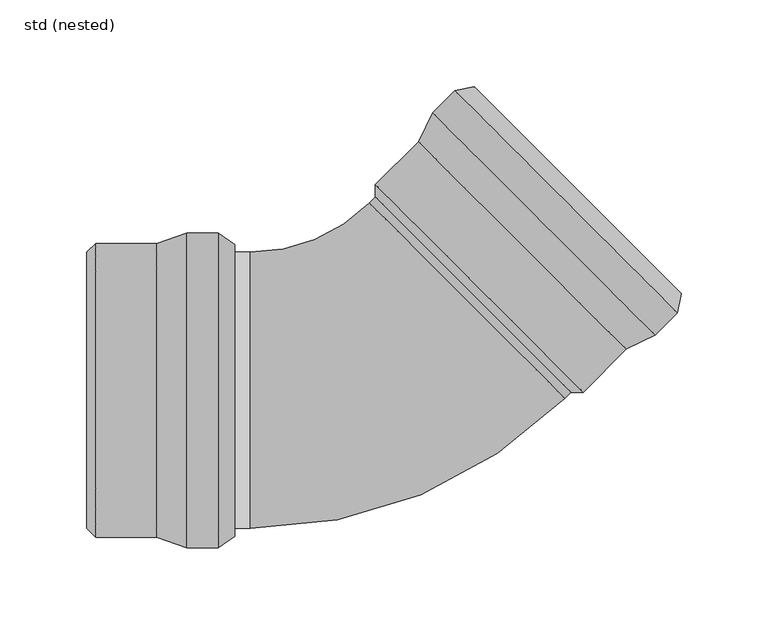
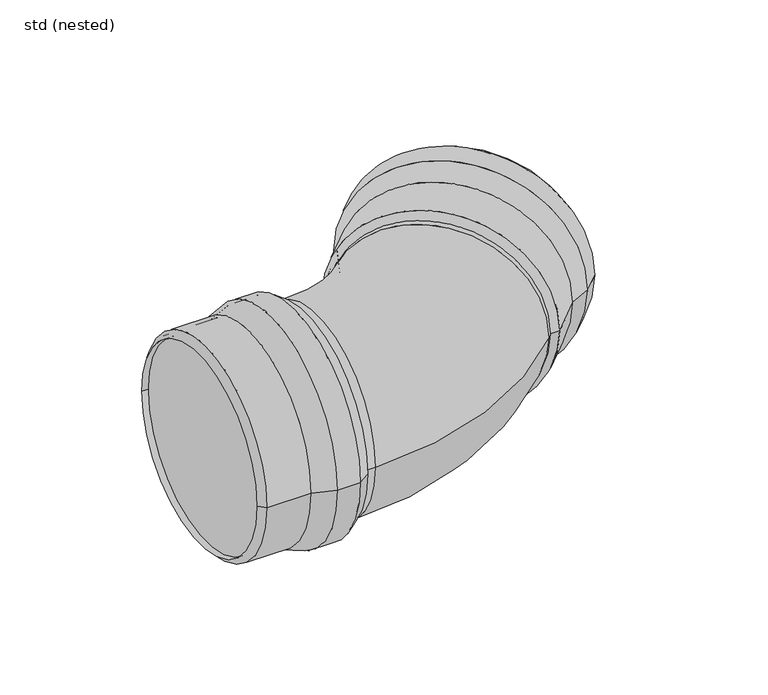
"""IFC4 building model written with IfcOpenShell, lengths in millimetres: pipe fitting geometry, ZZZ_do not use_PIF_ST_UN_GM-X pipe bend_ACO : std (nested)."""

from ifc_helpers import new_model, si_unit, point, frame, origin, place, context, project, spatial, polyline, circle_curve, ellipse_curve, trimmed, source, transform, mapped, element, save
from ifc_brep_helpers import plane_surface, cylinder_surface, revolved_surface, advanced_brep


def std_nested_abb7c94b(model_context):
    return source(origin(), model_context, "Body", "AdvancedBrep", [
        advanced_brep(
        [(-109.5, -90.5, 0.0), (-109.5, 90.5, 0.0), (-91.5, 90.5, 0.0), (-91.5, -90.5, 0.0), (-127.0, -84.5, 0.0), (-127.0, 84.5, 0.0), (-82.0, 84.0, 0.0), (-82.0, -84.0, 0.0), (-162.0, -84.5, 0.0), (-162.0, 84.5, 0.0), (-167.0, -79.5, 0.0), (-167.0, 79.5, 0.0), (-162.0, -79.5, 0.0), (-162.0, 79.5, 0.0), (-126.5833333, -82.0, 0.0), (-126.5833333, 82.0, 0.0), (-162.0, 82.0, 0.0), (-162.0, -82.0, 0.0), (-109.0833333, -88.0, 0.0), (-109.0833333, 88.0, 0.0), (-92.2734094, -88.0, 0.0), (-92.2734094, 88.0, 0.0), (-83.4117098, -81.9367318, 0.0), (-83.4117098, 81.9367318, 0.0)],
        [
            (0, 1, circle_curve(frame((-109.5, 0.0, 0.0), z_axis=(1.0, 0.0, 0.0), x_axis=(0.0, 1.0, 0.0)), 90.5)),
            (1, 2),
            (2, 3, circle_curve(frame((-91.5, 0.0, 0.0), z_axis=(-1.0, 0.0, 0.0), x_axis=(0.0, 1.0, 0.0)), 90.5)),
            (3, 0),
            (1, 0, circle_curve(frame((-109.5, 0.0, 0.0), z_axis=(1.0, 0.0, 0.0), x_axis=(0.0, 1.0, 0.0)), 90.5)),
            (3, 2, circle_curve(frame((-91.5, 0.0, 0.0), z_axis=(-1.0, 0.0, 0.0), x_axis=(0.0, 1.0, 0.0)), 90.5)),
            (4, 5, circle_curve(frame((-127.0, 0.0, 0.0), z_axis=(1.0, 0.0, 0.0), x_axis=(0.0, 1.0, 0.0)), 84.5)),
            (5, 1),
            (0, 4),
            (5, 4, circle_curve(frame((-127.0, 0.0, 0.0), z_axis=(1.0, 0.0, 0.0), x_axis=(0.0, 1.0, 0.0)), 84.5)),
            (2, 6),
            (6, 7, circle_curve(frame((-82.0, 0.0, 0.0), z_axis=(-1.0, 0.0, 0.0), x_axis=(0.0, 1.0, 0.0)), 84.0)),
            (7, 3),
            (7, 6, circle_curve(frame((-82.0, 0.0, 0.0), z_axis=(-1.0, 0.0, 0.0), x_axis=(0.0, 1.0, 0.0)), 84.0)),
            (8, 9, circle_curve(frame((-162.0, 0.0, 0.0), z_axis=(1.0, 0.0, 0.0), x_axis=(0.0, 1.0, 0.0)), 84.5)),
            (9, 5),
            (4, 8),
            (9, 8, circle_curve(frame((-162.0, 0.0, 0.0), z_axis=(1.0, 0.0, 0.0), x_axis=(0.0, 1.0, 0.0)), 84.5)),
            (10, 11, circle_curve(frame((-167.0, 0.0, 0.0), z_axis=(1.0, 0.0, 0.0), x_axis=(0.0, 1.0, 0.0)), 79.5)),
            (11, 9),
            (8, 10),
            (11, 10, circle_curve(frame((-167.0, 0.0, 0.0), z_axis=(1.0, 0.0, 0.0), x_axis=(0.0, 1.0, 0.0)), 79.5)),
            (12, 13, circle_curve(frame((-162.0, 0.0, 0.0), z_axis=(1.0, 0.0, 0.0), x_axis=(0.0, 1.0, 0.0)), 79.5)),
            (13, 11),
            (10, 12),
            (13, 12, circle_curve(frame((-162.0, 0.0, 0.0), z_axis=(1.0, 0.0, 0.0), x_axis=(0.0, 1.0, 0.0)), 79.5)),
            (14, 15, circle_curve(frame((-126.5833333, 0.0, 0.0), z_axis=(1.0, 0.0, 0.0), x_axis=(0.0, 1.0, 0.0)), 82.0)),
            (15, 16),
            (16, 17, circle_curve(frame((-162.0, 0.0, 0.0), z_axis=(-1.0, 0.0, 0.0), x_axis=(0.0, 1.0, 0.0)), 82.0)),
            (17, 14),
            (15, 14, circle_curve(frame((-126.5833333, 0.0, 0.0), z_axis=(1.0, 0.0, 0.0), x_axis=(0.0, 1.0, 0.0)), 82.0)),
            (17, 16, circle_curve(frame((-162.0, 0.0, 0.0), z_axis=(-1.0, 0.0, 0.0), x_axis=(0.0, 1.0, 0.0)), 82.0)),
            (18, 19, circle_curve(frame((-109.0833333, 0.0, 0.0), z_axis=(1.0, 0.0, 0.0), x_axis=(0.0, 1.0, 0.0)), 88.0)),
            (19, 15),
            (14, 18),
            (19, 18, circle_curve(frame((-109.0833333, 0.0, 0.0), z_axis=(1.0, 0.0, 0.0), x_axis=(0.0, 1.0, 0.0)), 88.0)),
            (20, 21, circle_curve(frame((-92.2734094, 0.0, 0.0), z_axis=(1.0, 0.0, 0.0), x_axis=(0.0, 1.0, 0.0)), 88.0)),
            (21, 19),
            (18, 20),
            (21, 20, circle_curve(frame((-92.2734094, 0.0, 0.0), z_axis=(1.0, 0.0, 0.0), x_axis=(0.0, 1.0, 0.0)), 88.0)),
            (22, 23, circle_curve(frame((-83.4117098, 0.0, 0.0), z_axis=(1.0, 0.0, 0.0), x_axis=(0.0, 1.0, 0.0)), 81.9367318)),
            (23, 21),
            (20, 22),
            (23, 22, circle_curve(frame((-83.4117098, 0.0, 0.0), z_axis=(1.0, 0.0, 0.0), x_axis=(0.0, 1.0, 0.0)), 81.9367318)),
            (6, 23),
            (22, 7),
            (16, 13),
            (12, 17),
        ],
        [
            cylinder_surface(frame((-85.3555883, 0.0, 0.0), z_axis=(-1.0, 0.0, 0.0), x_axis=(0.0, 1.0, 0.0)), 90.5),
            revolved_surface(polyline([(-109.5, 90.5, 0.0), (-127.0, 84.5, 0.0)]), (-85.3555883, 0.0, 0.0), (-1.0, 0.0, 0.0)),
            revolved_surface(polyline([(-82.0, 84.0, 0.0), (-91.5, 90.5, 0.0)]), (-85.3555883, 0.0, 0.0), (-1.0, 0.0, 0.0)),
            cylinder_surface(frame((-85.3555883, 0.0, 0.0), z_axis=(-1.0, 0.0, 0.0), x_axis=(0.0, 1.0, 0.0)), 84.5),
            revolved_surface(polyline([(-162.0, 84.5, 0.0), (-167.0, 79.5, 0.0)]), (-85.3555883, 0.0, 0.0), (-1.0, 0.0, 0.0)),
            revolved_surface(polyline([(-167.0, 79.5, 0.0), (-162.0, 79.5, 0.0)]), (-85.3555883, 0.0, 0.0), (-1.0, 0.0, 0.0)),
            revolved_surface(polyline([(-162.0, 82.0, 0.0), (-126.5833333, 82.0, 0.0)]), (-85.3555883, 0.0, 0.0), (-1.0, 0.0, 0.0)),
            revolved_surface(polyline([(-126.5833333, 82.0, 0.0), (-109.0833333, 88.0, 0.0)]), (-85.3555883, 0.0, 0.0), (-1.0, 0.0, 0.0)),
            revolved_surface(polyline([(-109.0833333, 88.0, 0.0), (-92.2734094, 88.0, 0.0)]), (-85.3555883, 0.0, 0.0), (-1.0, 0.0, 0.0)),
            revolved_surface(polyline([(-92.2734094, 88.0, 0.0), (-83.4117098, 81.9367318, 0.0)]), (-85.3555883, 0.0, 0.0), (-1.0, 0.0, 0.0)),
            revolved_surface(polyline([(-83.4117098, 81.9367318, 0.0), (-82.0, 84.0, 0.0)]), (-85.3555883, 0.0, 0.0), (-1.0, 0.0, 0.0)),
            plane_surface(frame((-162.0, 0.0, 0.0), z_axis=(1.0, 0.0, 0.0), x_axis=(0.0, 1.0, 0.0))),
        ],
        [
            (0, [[1, 2, 3, 4]]),
            (0, [[5, -4, 6, -2]]),
            (1, [[7, 8, -1, 9]]),
            (1, [[10, -9, -5, -8]]),
            (2, [[-3, 11, 12, 13]]),
            (2, [[-6, -13, 14, -11]]),
            (3, [[15, 16, -7, 17]]),
            (3, [[18, -17, -10, -16]]),
            (4, [[19, 20, -15, 21]]),
            (4, [[22, -21, -18, -20]]),
            (5, [[23, 24, -19, 25]]),
            (5, [[26, -25, -22, -24]]),
            (6, [[27, 28, 29, 30]]),
            (6, [[31, -30, 32, -28]]),
            (7, [[33, 34, -27, 35]]),
            (7, [[36, -35, -31, -34]]),
            (8, [[37, 38, -33, 39]]),
            (8, [[40, -39, -36, -38]]),
            (9, [[41, 42, -37, 43]]),
            (9, [[44, -43, -40, -42]]),
            (10, [[-12, 45, -41, 46]]),
            (10, [[-14, -46, -44, -45]]),
            (11, [[-29, 47, -23, 48]]),
            (11, [[-32, -48, -26, -47]]),
        ],
    ),
        advanced_brep(
        [(159.8061325, 31.8198052, 0.0), (31.8198052, 159.8061325, 0.0), (44.5477272, 172.5340546, 0.0), (172.5340546, 44.5477272, 0.0), (143.1891232, 23.6880772, 0.0), (23.6880772, 143.1891232, 0.0), (55.8614357, 174.655375, 0.0), (174.655375, 55.8614357, 0.0), (118.4403858, -1.0606602, 0.0), (-1.0606602, 118.4403858, 0.0), (111.369318, -1.0606602, 0.0), (-1.0606602, 111.369318, 0.0), (114.9048519, 2.4748737, 0.0), (2.4748737, 114.9048519, 0.0), (141.7159841, 25.7504719, 0.0), (25.7504719, 141.7159841, 0.0), (0.7071068, 116.6726189, 0.0), (116.6726189, 0.7071068, 0.0), (158.3329934, 33.8821999, 0.0), (33.8821999, 158.3329934, 0.0), (170.2194046, 45.7686111, 0.0), (45.7686111, 170.2194046, 0.0), (172.1981945, 56.3221571, 0.0), (56.3221571, 172.1981945, 0.0)],
        [
            (0, 1, circle_curve(frame((95.8129689, 95.8129689, 0.0), z_axis=(0.707106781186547, 0.707106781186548, 0.0), x_axis=(-0.707106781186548, 0.707106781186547, 0.0)), 90.5)),
            (1, 2),
            (2, 3, circle_curve(frame((108.5408909, 108.5408909, 0.0), z_axis=(-0.707106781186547, -0.707106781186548, 0.0), x_axis=(-0.707106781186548, 0.707106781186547, 0.0)), 90.5)),
            (3, 0),
            (1, 0, circle_curve(frame((95.8129689, 95.8129689, 0.0), z_axis=(0.707106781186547, 0.707106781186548, 0.0), x_axis=(-0.707106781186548, 0.707106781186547, 0.0)), 90.5)),
            (3, 2, circle_curve(frame((108.5408909, 108.5408909, 0.0), z_axis=(-0.707106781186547, -0.707106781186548, 0.0), x_axis=(-0.707106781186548, 0.707106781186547, 0.0)), 90.5)),
            (4, 5, circle_curve(frame((83.4386002, 83.4386002, 0.0), z_axis=(0.707106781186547, 0.707106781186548, 0.0), x_axis=(-0.707106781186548, 0.707106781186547, 0.0)), 84.5)),
            (5, 1),
            (0, 4),
            (5, 4, circle_curve(frame((83.4386002, 83.4386002, 0.0), z_axis=(0.707106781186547, 0.707106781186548, 0.0), x_axis=(-0.707106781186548, 0.707106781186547, 0.0)), 84.5)),
            (2, 6),
            (6, 7, circle_curve(frame((115.2584053, 115.2584053, 0.0), z_axis=(-0.707106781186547, -0.707106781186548, 0.0), x_axis=(-0.707106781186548, 0.707106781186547, 0.0)), 84.0)),
            (7, 3),
            (7, 6, circle_curve(frame((115.2584053, 115.2584053, 0.0), z_axis=(-0.707106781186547, -0.707106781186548, 0.0), x_axis=(-0.707106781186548, 0.707106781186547, 0.0)), 84.0)),
            (8, 9, circle_curve(frame((58.6898628, 58.6898628, 0.0), z_axis=(0.707106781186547, 0.707106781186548, 0.0), x_axis=(-0.707106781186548, 0.707106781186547, 0.0)), 84.5)),
            (9, 5),
            (4, 8),
            (9, 8, circle_curve(frame((58.6898628, 58.6898628, 0.0), z_axis=(0.707106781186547, 0.707106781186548, 0.0), x_axis=(-0.707106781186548, 0.707106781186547, 0.0)), 84.5)),
            (10, 11, circle_curve(frame((55.1543289, 55.1543289, 0.0), z_axis=(0.707106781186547, 0.707106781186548, 0.0), x_axis=(-0.707106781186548, 0.707106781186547, 0.0)), 79.5)),
            (11, 9),
            (8, 10),
            (11, 10, circle_curve(frame((55.1543289, 55.1543289, 0.0), z_axis=(0.707106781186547, 0.707106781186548, 0.0), x_axis=(-0.707106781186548, 0.707106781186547, 0.0)), 79.5)),
            (12, 13, circle_curve(frame((58.6898628, 58.6898628, 0.0), z_axis=(0.707106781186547, 0.707106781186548, 0.0), x_axis=(-0.707106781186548, 0.707106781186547, 0.0)), 79.5)),
            (13, 11),
            (10, 12),
            (13, 12, circle_curve(frame((58.6898628, 58.6898628, 0.0), z_axis=(0.707106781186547, 0.707106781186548, 0.0), x_axis=(-0.707106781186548, 0.707106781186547, 0.0)), 79.5)),
            (14, 15, circle_curve(frame((83.733228, 83.733228, 0.0), z_axis=(0.707106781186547, 0.707106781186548, 0.0), x_axis=(-0.707106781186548, 0.707106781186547, 0.0)), 82.0)),
            (15, 16),
            (16, 17, circle_curve(frame((58.6898628, 58.6898628, 0.0), z_axis=(-0.707106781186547, -0.707106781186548, 0.0), x_axis=(-0.707106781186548, 0.707106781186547, 0.0)), 82.0)),
            (17, 14),
            (15, 14, circle_curve(frame((83.733228, 83.733228, 0.0), z_axis=(0.707106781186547, 0.707106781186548, 0.0), x_axis=(-0.707106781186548, 0.707106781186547, 0.0)), 82.0)),
            (17, 16, circle_curve(frame((58.6898628, 58.6898628, 0.0), z_axis=(-0.707106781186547, -0.707106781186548, 0.0), x_axis=(-0.707106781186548, 0.707106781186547, 0.0)), 82.0)),
            (18, 19, circle_curve(frame((96.1075967, 96.1075967, 0.0), z_axis=(0.707106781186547, 0.707106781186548, 0.0), x_axis=(-0.707106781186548, 0.707106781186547, 0.0)), 88.0)),
            (19, 15),
            (14, 18),
            (19, 18, circle_curve(frame((96.1075967, 96.1075967, 0.0), z_axis=(0.707106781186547, 0.707106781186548, 0.0), x_axis=(-0.707106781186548, 0.707106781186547, 0.0)), 88.0)),
            (20, 21, circle_curve(frame((107.9940079, 107.9940079, 0.0), z_axis=(0.707106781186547, 0.707106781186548, 0.0), x_axis=(-0.707106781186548, 0.707106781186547, 0.0)), 88.0)),
            (21, 19),
            (18, 20),
            (21, 20, circle_curve(frame((107.9940079, 107.9940079, 0.0), z_axis=(0.707106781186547, 0.707106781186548, 0.0), x_axis=(-0.707106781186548, 0.707106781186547, 0.0)), 88.0)),
            (22, 23, circle_curve(frame((114.2601758, 114.2601758, 0.0), z_axis=(0.707106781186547, 0.707106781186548, 0.0), x_axis=(-0.707106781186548, 0.707106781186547, 0.0)), 81.9367318)),
            (23, 21),
            (20, 22),
            (23, 22, circle_curve(frame((114.2601758, 114.2601758, 0.0), z_axis=(0.707106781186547, 0.707106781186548, 0.0), x_axis=(-0.707106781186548, 0.707106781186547, 0.0)), 81.9367318)),
            (6, 23),
            (22, 7),
            (16, 13),
            (12, 17),
        ],
        [
            cylinder_surface(frame((112.8856461, 112.8856461, 0.0), z_axis=(-0.707106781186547, -0.707106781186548, 0.0), x_axis=(-0.707106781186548, 0.707106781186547, 0.0)), 90.5),
            revolved_surface(polyline([(31.8198052, 159.8061325, 0.0), (23.6880772, 143.1891232, 0.0)]), (112.8856461, 112.8856461, 0.0), (-0.707106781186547, -0.707106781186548, 0.0)),
            revolved_surface(polyline([(55.8614357, 174.655375, 0.0), (44.5477272, 172.5340546, 0.0)]), (112.8856461, 112.8856461, 0.0), (-0.707106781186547, -0.707106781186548, 0.0)),
            cylinder_surface(frame((112.8856461, 112.8856461, 0.0), z_axis=(-0.707106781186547, -0.707106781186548, 0.0), x_axis=(-0.707106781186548, 0.707106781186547, 0.0)), 84.5),
            revolved_surface(polyline([(-1.0606602, 118.4403858, 0.0), (-1.0606602, 111.369318, 0.0)]), (112.8856461, 112.8856461, 0.0), (-0.707106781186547, -0.707106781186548, 0.0)),
            revolved_surface(polyline([(-1.06066020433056, 111.36931800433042, 0.0), (2.4748736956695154, 114.90485190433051, 0.0)]), (112.8856461, 112.8856461, 0.0), (-0.707106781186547, -0.707106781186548, 0.0)),
            revolved_surface(polyline([(0.7071067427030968, 116.67261885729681, 0.0), (25.75047194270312, 141.71598405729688, 0.0)]), (112.8856461, 112.8856461, 0.0), (-0.707106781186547, -0.707106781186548, 0.0)),
            revolved_surface(polyline([(25.7504719, 141.7159841, 0.0), (33.8821999, 158.3329934, 0.0)]), (112.8856461, 112.8856461, 0.0), (-0.707106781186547, -0.707106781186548, 0.0)),
            revolved_surface(polyline([(33.88219990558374, 158.3329933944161, 0.0), (45.768611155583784, 170.21940464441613, 0.0)]), (112.8856461, 112.8856461, 0.0), (-0.707106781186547, -0.707106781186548, 0.0)),
            revolved_surface(polyline([(45.7686111, 170.2194046, 0.0), (56.3221571, 172.1981945, 0.0)]), (112.8856461, 112.8856461, 0.0), (-0.707106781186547, -0.707106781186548, 0.0)),
            revolved_surface(polyline([(56.3221571, 172.1981945, 0.0), (55.8614357, 174.655375, 0.0)]), (112.8856461, 112.8856461, 0.0), (-0.707106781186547, -0.707106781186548, 0.0)),
            plane_surface(frame((58.6898628, 58.6898628, 0.0), z_axis=(0.707106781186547, 0.707106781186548, 0.0), x_axis=(-0.707106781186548, 0.707106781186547, 0.0))),
        ],
        [
            (0, [[1, 2, 3, 4]]),
            (0, [[5, -4, 6, -2]]),
            (1, [[7, 8, -1, 9]]),
            (1, [[10, -9, -5, -8]]),
            (2, [[-3, 11, 12, 13]]),
            (2, [[-6, -13, 14, -11]]),
            (3, [[15, 16, -7, 17]]),
            (3, [[18, -17, -10, -16]]),
            (4, [[19, 20, -15, 21]]),
            (4, [[22, -21, -18, -20]]),
            (5, [[23, 24, -19, 25]]),
            (5, [[26, -25, -22, -24]]),
            (6, [[27, 28, 29, 30]]),
            (6, [[31, -30, 32, -28]]),
            (7, [[33, 34, -27, 35]]),
            (7, [[36, -35, -31, -34]]),
            (8, [[37, 38, -33, 39]]),
            (8, [[40, -39, -36, -38]]),
            (9, [[41, 42, -37, 43]]),
            (9, [[44, -43, -40, -42]]),
            (10, [[-12, 45, -41, 46]]),
            (10, [[-14, -46, -44, -45]]),
            (11, [[-29, 47, -23, 48]]),
            (11, [[-32, -48, -26, -47]]),
        ],
    ),
        advanced_brep(
        [(-4.5961941, 107.8337841, 0.0), (-73.0, 79.5, 0.0), (-73.0, -79.5, 0.0), (107.8337841, -4.5961941, 0.0), (51.618795, 51.618795, 79.5), (51.618795, 51.618795, -79.5), (-162.0, -79.5, 0.0), (-162.0, 79.5, 0.0), (114.9048519, 2.4748737, 0.0), (2.4748737, 114.9048519, 0.0)],
        [
            (0, 1, circle_curve(frame((-73.0, 176.2375901, 0.0), z_axis=(0.0, 0.0, -1.0), x_axis=(0.0, -1.0, 0.0)), 96.7375901)),
            (1, 2, circle_curve(frame((-73.0, 0.0, 0.0), z_axis=(1.0, 0.0, 0.0), x_axis=(0.0, 1.0, 0.0)), 79.5)),
            (2, 3, circle_curve(frame((-73.0, 176.2375901, 0.0), z_axis=(0.0, 0.0, 1.0), x_axis=(0.0, -1.0, 0.0)), 255.7375901)),
            (3, 4, circle_curve(frame((51.618795, 51.618795, 0.0), z_axis=(-0.7071067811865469, -0.7071067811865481, 0.0), x_axis=(-0.7071067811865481, 0.7071067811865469, 0.0)), 79.5)),
            (4, 0, circle_curve(frame((51.618795, 51.618795, 0.0), z_axis=(-0.7071067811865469, -0.7071067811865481, 0.0), x_axis=(-0.7071067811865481, 0.7071067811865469, 0.0)), 79.5)),
            (0, 5, circle_curve(frame((51.618795, 51.618795, 0.0), z_axis=(-0.7071067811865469, -0.7071067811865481, 0.0), x_axis=(-0.7071067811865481, 0.7071067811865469, 0.0)), 79.5)),
            (5, 3, circle_curve(frame((51.618795, 51.618795, 0.0), z_axis=(-0.7071067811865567, -0.7071067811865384, 0.0), x_axis=(-0.7071067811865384, 0.7071067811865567, 0.0)), 79.5)),
            (2, 1, circle_curve(frame((-73.0, 0.0, 0.0), z_axis=(1.0, 0.0, 0.0), x_axis=(0.0, 1.0, 0.0)), 79.5)),
            (6, 7, circle_curve(frame((-162.0, 0.0, 0.0), z_axis=(-1.0, 0.0, 0.0), x_axis=(0.0, 1.0, 0.0)), 79.5)),
            (7, 6, circle_curve(frame((-162.0, 0.0, 0.0), z_axis=(-1.0, 0.0, 0.0), x_axis=(0.0, 1.0, 0.0)), 79.5)),
            (7, 1),
            (2, 6),
            (8, 9, circle_curve(frame((58.6898628, 58.6898628, 0.0), z_axis=(0.7071067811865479, 0.7071067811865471, 0.0), x_axis=(-0.7071067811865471, 0.7071067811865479, 0.0)), 79.5)),
            (9, 8, circle_curve(frame((58.6898628, 58.6898628, 0.0), z_axis=(0.7071067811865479, 0.7071067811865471, 0.0), x_axis=(-0.7071067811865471, 0.7071067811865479, 0.0)), 79.5)),
            (9, 0),
            (3, 8),
        ],
        [
            revolved_surface(trimmed(ellipse_curve(frame((-73.0, 0.0, 0.0), z_axis=(-1.0, 0.0, 0.0), x_axis=(0.0, 1.0, 0.0)), 79.5, 79.5), [point((-73.0, -79.5, 0.0))], [point((-73.0, 79.5, 0.0))], True, "CARTESIAN"), (-73.0, 176.2375901, 0.0), (0.0, 0.0, 1.0)),
            revolved_surface(trimmed(ellipse_curve(frame((-73.0, 0.0, 0.0), z_axis=(-1.0, 0.0, 0.0), x_axis=(0.0, 1.0, 0.0)), 79.5, 79.5), [point((-73.0, 79.5, 0.0))], [point((-73.0, -79.5, 0.0))], True, "CARTESIAN"), (-73.0, 176.2375901, 0.0), (0.0, 0.0, 1.0)),
            plane_surface(frame((-162.0, 79.5, 0.0), z_axis=(-1.0, 0.0, 0.0), x_axis=(0.0, 0.0, -1.0))),
            cylinder_surface(frame((-162.0, 0.0, 0.0), z_axis=(1.0, 0.0, 0.0), x_axis=(0.0, 1.0, 0.0)), 79.5),
            plane_surface(frame((58.6898628, 58.6898628, 0.0), z_axis=(0.7071067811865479, 0.7071067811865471, 0.0), x_axis=(0.0, 0.0, 1.0))),
            cylinder_surface(frame((51.618795, 51.618795, 0.0), z_axis=(-0.7071067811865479, -0.7071067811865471, 0.0), x_axis=(-0.7071067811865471, 0.7071067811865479, 0.0)), 79.5),
        ],
        [
            (0, [[1, 2, 3, 4, 5]]),
            (1, [[-1, 6, 7, -3, 8]]),
            (2, [[9, 10]]),
            (3, [[-10, 11, -8, 12]]),
            (3, [[-9, -12, -2, -11]]),
            (4, [[13, 14]]),
            (5, [[-14, 15, -5, -4, 16]]),
            (5, [[-13, -16, -7, -6, -15]]),
        ],
    ),
    ])


if __name__ == "__main__":
    model = new_model("IFC4")
    model_context = context("Model", 3, world=origin())
    ifc_project = project(units=[si_unit("LENGTHUNIT", "METRE", prefix="MILLI")], contexts=[model_context])
    site = spatial("IfcSite", under=ifc_project)
    building = spatial("IfcBuilding", under=site)
    placement = place(None, origin())
    std_nested_shape = std_nested_abb7c94b(model_context)
    element("IfcPipeFitting", 1, ObjectType="ZZZ_do not use_PIF_ST_UN_GM-X pipe bend_ACO : std (nested)", at=placement, inside=building, context=model_context, shape_type="MappedRepresentation", body=[
        mapped(std_nested_shape, transform((0.0, 0.0, 0.0), x_axis=(1.0, 0.0, 0.0), y_axis=(0.0, 1.0, 0.0), z_axis=(0.0, 0.0, 1.0))),
    ])
    save(model, "model.ifc")
